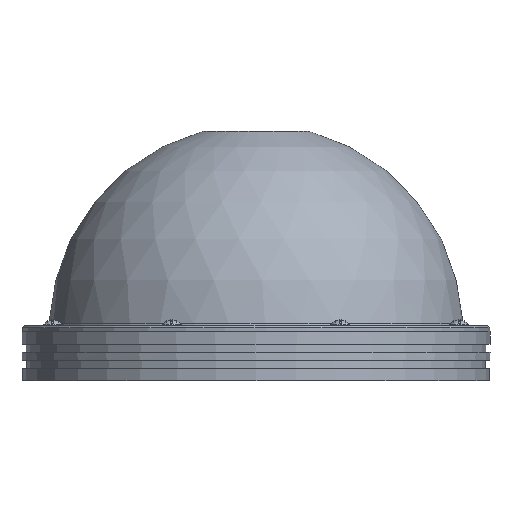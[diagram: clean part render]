
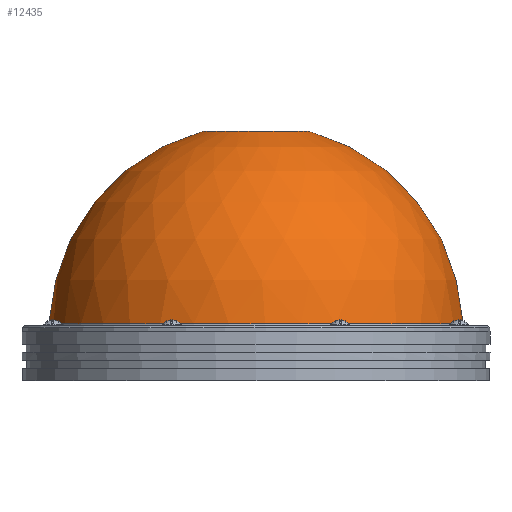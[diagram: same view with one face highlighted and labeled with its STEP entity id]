
A CAD part, left-side view. The second image highlights one B-rep face of the part: STEP entity #12435.
In plain terms, the highlighted spherical face has radius 51 mm.
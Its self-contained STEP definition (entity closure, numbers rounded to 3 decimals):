
#12374=CARTESIAN_POINT('',(50.962,0.,1.981));
#12375=VERTEX_POINT('',#12374);
#12383=CARTESIAN_POINT('',(0.,0.,1.981));
#12384=DIRECTION('',(1.,0.,-0.));
#12385=DIRECTION('',(0.,-0.,1.));
#12386=AXIS2_PLACEMENT_3D('',#12383,#12385,#12384);
#12387=CIRCLE('',#12386,50.962);
#12388=EDGE_CURVE('',#12375,#12375,#12387,.T.);
#12401=CARTESIAN_POINT('',(0.,0.,0.));
#12402=DIRECTION('',(1.,0.,0.));
#12403=DIRECTION('',(0.,0.,1.));
#12404=AXIS2_PLACEMENT_3D('',#12401,#12403,#12402);
#12405=SPHERICAL_SURFACE('',#12404,51.);
#12406=CARTESIAN_POINT('',(12.984,0.,49.319));
#12407=VERTEX_POINT('',#12406);
#12408=CARTESIAN_POINT('',(0.,0.,0.));
#12409=DIRECTION('',(0.999,0.,0.039));
#12410=DIRECTION('',(-0.,-1.,0.));
#12411=AXIS2_PLACEMENT_3D('',#12408,#12410,#12409);
#12412=CIRCLE('',#12411,51.);
#12413=EDGE_CURVE('',#12375,#12407,#12412,.T.);
#12414=ORIENTED_EDGE('',*,*,#12413,.T.);
#12415=CARTESIAN_POINT('',(0.,-12.984,49.319));
#12416=VERTEX_POINT('',#12415);
#12417=CARTESIAN_POINT('',(0.,0.,49.319));
#12418=DIRECTION('',(1.,0.,0.));
#12419=DIRECTION('',(0.,0.,1.));
#12420=AXIS2_PLACEMENT_3D('',#12417,#12419,#12418);
#12421=CIRCLE('',#12420,12.984);
#12422=EDGE_CURVE('',#12407,#12416,#12421,.T.);
#12423=ORIENTED_EDGE('',*,*,#12422,.T.);
#12424=CARTESIAN_POINT('',(0.,0.,49.319));
#12425=DIRECTION('',(0.,-1.,0.));
#12426=DIRECTION('',(0.,0.,1.));
#12427=AXIS2_PLACEMENT_3D('',#12424,#12426,#12425);
#12428=CIRCLE('',#12427,12.984);
#12429=EDGE_CURVE('',#12416,#12407,#12428,.T.);
#12430=ORIENTED_EDGE('',*,*,#12429,.T.);
#12431=ORIENTED_EDGE('',*,*,#12413,.F.);
#12432=ORIENTED_EDGE('',*,*,#12388,.F.);
#12433=EDGE_LOOP('',(#12414,#12423,#12430,#12431,#12432));
#12434=FACE_OUTER_BOUND('',#12433,.F.);
#12435=ADVANCED_FACE('',(#12434),#12405,.T.);
